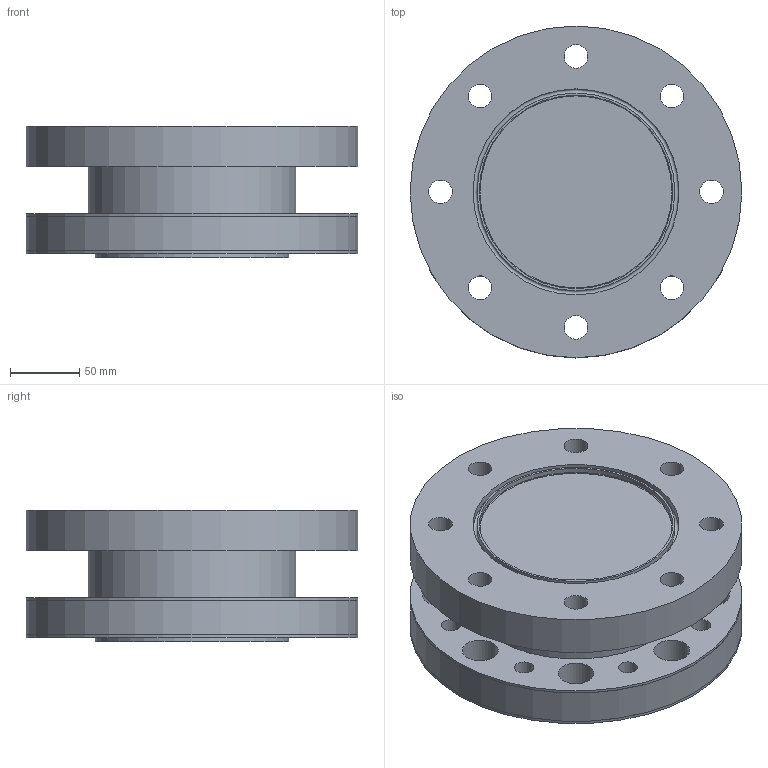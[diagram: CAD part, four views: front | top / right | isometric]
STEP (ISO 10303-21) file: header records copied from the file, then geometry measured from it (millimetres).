
FILE_DESCRIPTION(/* description */ (''),/* implementation_level */ '2;1');
FILE_NAME(/* name */ 'F:\Sensorik\Standard_Messflansche\XtreMA_NEW\Fertigung\BG5\XtreMA_BG5_NEW_V.stp',/* time_stamp */ '2022-07-05T07:49:59+02:00',/* author */ ('Lander'),/* organization */ (''),/* preprocessor_version */ 'ST-DEVELOPER v18.1',/* originating_system */ 'Autodesk Inventor 2021',/* authorisation */ '');
FILE_SCHEMA (('AUTOMOTIVE_DESIGN { 1 0 10303 214 3 1 1 }'));
Length unit declared in the file: millimetre
Products named in the file (1): XtreMA_BG2_500Nm_HBM
Bounding box: 240 x 240 x 94.8 mm (x, y, z)
Volume: 2862365.4 mm3; surface area: 258744.8 mm2
Topology: 1 solids, 1 shells, 57 faces, 142 edges, 94 vertices
Faces by surface type: cylinder 38, plane 9, torus 6, cone 4
Full cylindrical faces by diameter (mm): 13.835 x8, 17 x8, 26 x8, 136 x1, 140 x2, 141 x1, 143 x1, 147 x1, 149 x1, 150 x1, 158 x2, 239.8 x1, 240 x3
Entity records: 1907 total; most frequent: DIRECTION 358, CARTESIAN_POINT 294, ORIENTED_EDGE 284, AXIS2_PLACEMENT_3D 158, EDGE_CURVE 142, EDGE_LOOP 112, CIRCLE 100, VERTEX_POINT 94
